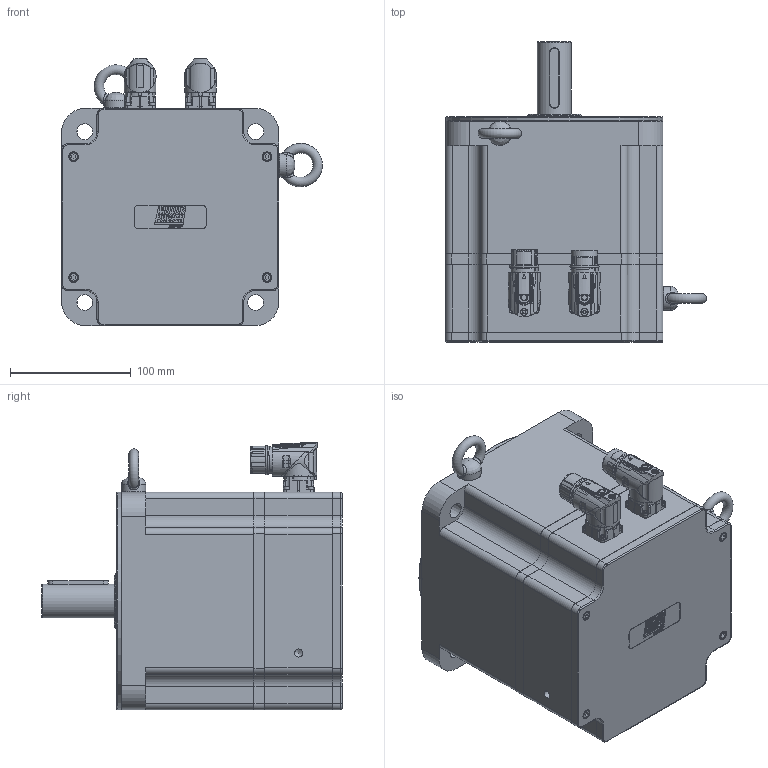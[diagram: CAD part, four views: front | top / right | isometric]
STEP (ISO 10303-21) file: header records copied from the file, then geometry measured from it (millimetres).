
FILE_DESCRIPTION(/* description */ ('Unknown'),/* implementation_level */ '2;1');
FILE_NAME(/* name */ 'TC4-180.7A.X X.X.3.XX.0.X.G2.00.00 Q0B808',/* time_stamp */ '2026-03-10T12:11:27+01:00',/* author */ ('Unknown'),/* organization */ ('Unknown'),/* preprocessor_version */ 'ST-DEVELOPER v19.4',/* originating_system */ 'Solid Edge',/* authorisation */ 'Unknown');
FILE_SCHEMA (('AUTOMOTIVE_DESIGN {1 0 10303 214 3 1 1}'));
Products named in the file (15): Q0B808 7A VUOTO; Calotta TC4-180 V8; 003251040631; 005911000479; 005911000185; 003155002230; 003003199965; 005113000610; 005119001064; Corpo TC4-180 7A V7; 007117000454; 007117000456; Coperchio campana TC4-180; 005911000180; 005321000010
Assembly tree (32 placements, depth 2):
  Q0B808 7A VUOTO
    Calotta TC4-180 V8
    003251040631
    005911000479  x8
    005911000185  x8
    003155002230
    003003199965
    005113000610
    005119001064
    Corpo TC4-180 7A V7
    007117000454
    007117000456
    Coperchio campana TC4-180
    005911000180  x4
    005321000010  x2
Bounding box: 215.97 x 248.51 x 221.5 mm (x, y, z)
Volume: 2590012.3 mm3; surface area: 594881.8 mm2
Topology: 34 solids, 34 shells, 2233 faces, 5609 edges, 3598 vertices
Faces by surface type: plane 939, cylinder 516, cone 302, bspline 270, torus 147, sphere 59
Full cylindrical faces by diameter (mm): 0.5 x1, 1 x21, 1.2 x17, 1.4 x4, 2 x4, 2.013 x16, 2.5 x8, 2.8 x4, 3 x12, 3.242 x8, 4 x5, 4.134 x24, 4.2 x8, 4.5 x10, 4.7 x8, 5 x8, 5.5 x10, 5.8 x1, 5.9 x2, 6.647 x14, 6.8 x1, 7 x6, 8 x6, 8.376 x2, 9 x4, 10 x3, 15 x1, 15.2 x1, 17.4 x3, 18 x1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
Entity records: 77003 total; most frequent: CARTESIAN_POINT 20167, ORIENTED_EDGE 8890, DIRECTION 8542, EDGE_CURVE 4445, AXIS2_PLACEMENT_3D 3322, VERTEX_POINT 3093, FACE_BOUND 2630, EDGE_LOOP 2600
